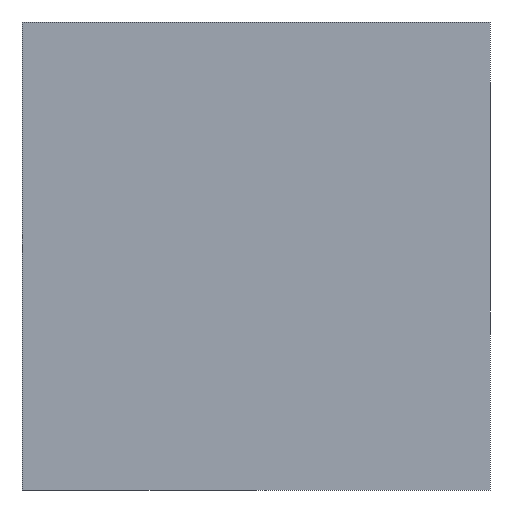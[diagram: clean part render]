
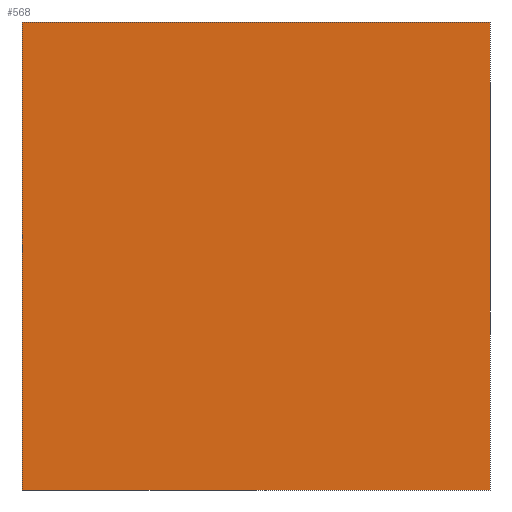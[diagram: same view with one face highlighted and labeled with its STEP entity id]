
A CAD part, left-side view. The second image highlights one B-rep face of the part: STEP entity #568.
In plain terms, the highlighted planar face has unit normal (-1, 0, 0).
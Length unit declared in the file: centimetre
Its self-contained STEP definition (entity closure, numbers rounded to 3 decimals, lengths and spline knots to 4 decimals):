
#28 = LINE ( 'NONE', #380, #105 ) ;
#33 = ORIENTED_EDGE ( 'NONE', *, *, #512, .F. ) ;
#43 = LINE ( 'NONE', #267, #514 ) ;
#55 = CARTESIAN_POINT ( 'NONE',  ( 0., 1000., 1000. ) ) ;
#98 = PLANE ( 'NONE',  #349 ) ;
#105 = VECTOR ( 'NONE', #494, 100. ) ;
#109 = CARTESIAN_POINT ( 'NONE',  ( 0., 1000., 0. ) ) ;
#111 = CARTESIAN_POINT ( 'NONE',  ( 0., 0., 0. ) ) ;
#139 = DIRECTION ( 'NONE',  ( 0., -1., 0. ) ) ;
#163 = EDGE_CURVE ( 'NONE', #572, #524, #43, .T. ) ;
#231 = CARTESIAN_POINT ( 'NONE',  ( 0., 1000., 1000. ) ) ;
#239 = LINE ( 'NONE', #109, #463 ) ;
#267 = CARTESIAN_POINT ( 'NONE',  ( 0., 1000., 1000. ) ) ;
#281 = VECTOR ( 'NONE', #340, 100. ) ;
#290 = DIRECTION ( 'NONE',  ( 1., 0., 0. ) ) ;
#294 = DIRECTION ( 'NONE',  ( 0., 0., -1. ) ) ;
#330 = LINE ( 'NONE', #528, #281 ) ;
#335 = EDGE_LOOP ( 'NONE', ( #493, #354, #33, #579 ) ) ;
#340 = DIRECTION ( 'NONE',  ( 0., -1., 0. ) ) ;
#349 = AXIS2_PLACEMENT_3D ( 'NONE', #55, #290, #294 ) ;
#354 = ORIENTED_EDGE ( 'NONE', *, *, #496, .F. ) ;
#356 = DIRECTION ( 'NONE',  ( 0., 0., -1. ) ) ;
#380 = CARTESIAN_POINT ( 'NONE',  ( 0., 0., 1000. ) ) ;
#463 = VECTOR ( 'NONE', #139, 100. ) ;
#493 = ORIENTED_EDGE ( 'NONE', *, *, #507, .T. ) ;
#494 = DIRECTION ( 'NONE',  ( 0., 0., -1. ) ) ;
#496 = EDGE_CURVE ( 'NONE', #604, #531, #28, .T. ) ;
#507 = EDGE_CURVE ( 'NONE', #524, #531, #239, .T. ) ;
#512 = EDGE_CURVE ( 'NONE', #572, #604, #330, .T. ) ;
#514 = VECTOR ( 'NONE', #356, 100. ) ;
#524 = VERTEX_POINT ( 'NONE', #538 ) ;
#528 = CARTESIAN_POINT ( 'NONE',  ( 0., 1000., 1000. ) ) ;
#531 = VERTEX_POINT ( 'NONE', #111 ) ;
#538 = CARTESIAN_POINT ( 'NONE',  ( 0., 1000., 0. ) ) ;
#559 = CARTESIAN_POINT ( 'NONE',  ( 0., 0., 1000. ) ) ;
#568 = ADVANCED_FACE ( 'NONE', ( #594 ), #98, .F. ) ;
#572 = VERTEX_POINT ( 'NONE', #231 ) ;
#579 = ORIENTED_EDGE ( 'NONE', *, *, #163, .T. ) ;
#594 = FACE_OUTER_BOUND ( 'NONE', #335, .T. ) ;
#604 = VERTEX_POINT ( 'NONE', #559 ) ;
